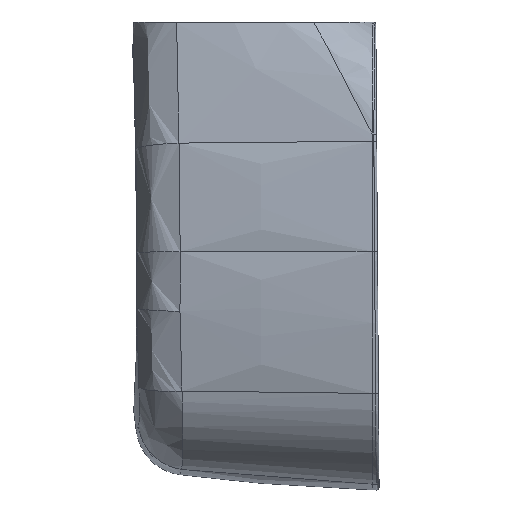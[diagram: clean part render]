
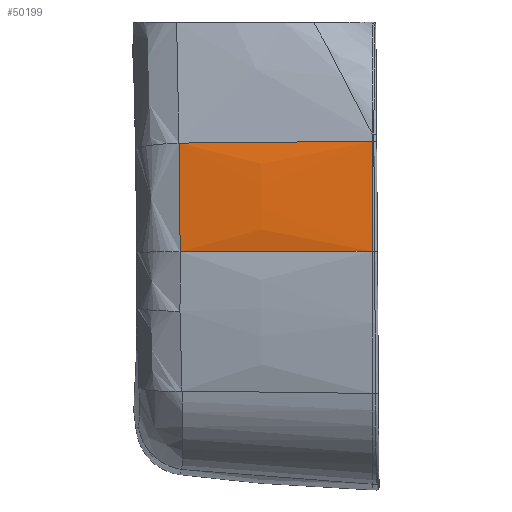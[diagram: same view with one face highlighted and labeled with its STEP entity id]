
A CAD part, front view. The second image highlights one B-rep face of the part: STEP entity #50199.
In plain terms, the highlighted free-form (B-spline) face has degree [5, 5] with [6, 9] control points.
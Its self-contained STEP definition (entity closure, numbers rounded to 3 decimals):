
#47293=CARTESIAN_POINT('Control Point',(265.896,-179.898,4.947)) ;
#47294=CARTESIAN_POINT('Control Point',(241.653,-179.27,4.937)) ;
#47295=CARTESIAN_POINT('Control Point',(217.441,-178.273,4.921)) ;
#47296=CARTESIAN_POINT('Control Point',(193.262,-176.906,4.899)) ;
#47297=CARTESIAN_POINT('Control Point',(151.411,-173.897,4.851)) ;
#47298=CARTESIAN_POINT('Control Point',(109.657,-169.779,4.784)) ;
#47299=CARTESIAN_POINT('Control Point',(92.012,-167.839,4.753)) ;
#47300=CARTESIAN_POINT('Control Point',(74.384,-165.7,4.718)) ;
#47301=CARTESIAN_POINT('Control Point',(56.773,-163.362,4.681)) ;
#47302=CARTESIAN_POINT('Vertex',(265.896,-179.898,4.947)) ;
#47304=CARTESIAN_POINT('Vertex',(56.773,-163.362,4.681)) ;
#50109=CARTESIAN_POINT('Control Point',(270.,-180.,4.949)) ;
#50110=CARTESIAN_POINT('Control Point',(244.931,-179.402,4.939)) ;
#50111=CARTESIAN_POINT('Control Point',(219.896,-178.41,4.923)) ;
#50112=CARTESIAN_POINT('Control Point',(194.896,-177.023,4.901)) ;
#50113=CARTESIAN_POINT('Control Point',(144.827,-173.45,4.843)) ;
#50114=CARTESIAN_POINT('Control Point',(94.895,-168.289,4.76)) ;
#50115=CARTESIAN_POINT('Control Point',(69.895,-165.302,4.712)) ;
#50116=CARTESIAN_POINT('Control Point',(44.93,-161.916,4.657)) ;
#50117=CARTESIAN_POINT('Control Point',(20.,-158.131,4.596)) ;
#50118=CARTESIAN_POINT('Control Point',(270.,-179.612,29.011)) ;
#50119=CARTESIAN_POINT('Control Point',(244.931,-179.014,28.989)) ;
#50120=CARTESIAN_POINT('Control Point',(219.896,-178.022,28.953)) ;
#50121=CARTESIAN_POINT('Control Point',(194.896,-176.636,28.903)) ;
#50122=CARTESIAN_POINT('Control Point',(144.827,-173.064,28.773)) ;
#50123=CARTESIAN_POINT('Control Point',(94.895,-167.904,28.586)) ;
#50124=CARTESIAN_POINT('Control Point',(69.895,-164.918,28.477)) ;
#50125=CARTESIAN_POINT('Control Point',(44.93,-161.534,28.354)) ;
#50126=CARTESIAN_POINT('Control Point',(20.,-157.75,28.217)) ;
#50127=CARTESIAN_POINT('Control Point',(270.,-178.617,53.063)) ;
#50128=CARTESIAN_POINT('Control Point',(244.931,-178.02,53.029)) ;
#50129=CARTESIAN_POINT('Control Point',(219.896,-177.029,52.973)) ;
#50130=CARTESIAN_POINT('Control Point',(194.896,-175.643,52.895)) ;
#50131=CARTESIAN_POINT('Control Point',(144.827,-172.074,52.693)) ;
#50132=CARTESIAN_POINT('Control Point',(94.895,-166.919,52.401)) ;
#50133=CARTESIAN_POINT('Control Point',(69.895,-163.936,52.232)) ;
#50134=CARTESIAN_POINT('Control Point',(44.93,-160.554,52.041)) ;
#50135=CARTESIAN_POINT('Control Point',(20.,-156.773,51.827)) ;
#50136=CARTESIAN_POINT('Control Point',(270.,-177.014,77.08)) ;
#50137=CARTESIAN_POINT('Control Point',(244.931,-176.418,77.034)) ;
#50138=CARTESIAN_POINT('Control Point',(219.896,-175.428,76.958)) ;
#50139=CARTESIAN_POINT('Control Point',(194.896,-174.045,76.852)) ;
#50140=CARTESIAN_POINT('Control Point',(144.827,-170.48,76.578)) ;
#50141=CARTESIAN_POINT('Control Point',(94.895,-165.332,76.182)) ;
#50142=CARTESIAN_POINT('Control Point',(69.895,-162.353,75.953)) ;
#50143=CARTESIAN_POINT('Control Point',(44.93,-158.975,75.693)) ;
#50144=CARTESIAN_POINT('Control Point',(20.,-155.2,75.403)) ;
#50145=CARTESIAN_POINT('Control Point',(270.,-174.806,101.05)) ;
#50146=CARTESIAN_POINT('Control Point',(244.931,-174.211,100.992)) ;
#50147=CARTESIAN_POINT('Control Point',(219.896,-173.223,100.896)) ;
#50148=CARTESIAN_POINT('Control Point',(194.896,-171.842,100.762)) ;
#50149=CARTESIAN_POINT('Control Point',(144.827,-168.284,100.416)) ;
#50150=CARTESIAN_POINT('Control Point',(94.895,-163.146,99.917)) ;
#50151=CARTESIAN_POINT('Control Point',(69.895,-160.172,99.628)) ;
#50152=CARTESIAN_POINT('Control Point',(44.93,-156.801,99.3)) ;
#50153=CARTESIAN_POINT('Control Point',(20.,-153.032,98.934)) ;
#50154=CARTESIAN_POINT('Control Point',(270.,-172.,124.949)) ;
#50155=CARTESIAN_POINT('Control Point',(244.931,-171.406,124.879)) ;
#50156=CARTESIAN_POINT('Control Point',(219.896,-170.421,124.764)) ;
#50157=CARTESIAN_POINT('Control Point',(194.896,-169.043,124.602)) ;
#50158=CARTESIAN_POINT('Control Point',(144.827,-165.493,124.185)) ;
#50159=CARTESIAN_POINT('Control Point',(94.895,-160.367,123.583)) ;
#50160=CARTESIAN_POINT('Control Point',(69.895,-157.4,123.235)) ;
#50161=CARTESIAN_POINT('Control Point',(44.93,-154.037,122.84)) ;
#50162=CARTESIAN_POINT('Control Point',(20.,-150.277,122.398)) ;
#50164=CARTESIAN_POINT('Control Point',(265.896,-171.899,124.937)) ;
#50165=CARTESIAN_POINT('Control Point',(241.653,-171.275,124.864)) ;
#50166=CARTESIAN_POINT('Control Point',(217.441,-170.284,124.748)) ;
#50167=CARTESIAN_POINT('Control Point',(193.262,-168.927,124.588)) ;
#50168=CARTESIAN_POINT('Control Point',(151.156,-165.92,124.235)) ;
#50169=CARTESIAN_POINT('Control Point',(109.148,-161.798,123.751)) ;
#50170=CARTESIAN_POINT('Control Point',(91.248,-159.837,123.521)) ;
#50171=CARTESIAN_POINT('Control Point',(73.367,-157.673,123.267)) ;
#50172=CARTESIAN_POINT('Control Point',(55.503,-155.306,122.989)) ;
#50173=CARTESIAN_POINT('Vertex',(265.896,-171.899,124.937)) ;
#50175=CARTESIAN_POINT('Vertex',(55.503,-155.306,122.989)) ;
#50179=CARTESIAN_POINT('Control Point',(56.773,-163.362,4.681)) ;
#50180=CARTESIAN_POINT('Control Point',(56.709,-162.971,28.414)) ;
#50181=CARTESIAN_POINT('Control Point',(56.545,-161.968,52.137)) ;
#50182=CARTESIAN_POINT('Control Point',(56.283,-160.352,75.814)) ;
#50183=CARTESIAN_POINT('Control Point',(55.931,-158.128,99.446)) ;
#50184=CARTESIAN_POINT('Control Point',(55.503,-155.306,122.989)) ;
#50187=CARTESIAN_POINT('Control Point',(265.896,-179.898,4.947)) ;
#50188=CARTESIAN_POINT('Control Point',(265.896,-179.413,35.022)) ;
#50189=CARTESIAN_POINT('Control Point',(265.896,-177.916,65.078)) ;
#50190=CARTESIAN_POINT('Control Point',(265.896,-175.406,95.065)) ;
#50191=CARTESIAN_POINT('Control Point',(265.896,-171.899,124.937)) ;
#50194=ORIENTED_EDGE('',*,*,#50177,.T.) ;
#50195=ORIENTED_EDGE('',*,*,#50185,.F.) ;
#50196=ORIENTED_EDGE('',*,*,#47306,.F.) ;
#50197=ORIENTED_EDGE('',*,*,#50192,.T.) ;
#50199=ADVANCED_FACE('Modello',(#50198),#50108,.T.) ;
#47292=B_SPLINE_CURVE_WITH_KNOTS('',5,(#47293,#47294,#47295,#47296,#47297,#47298,#47299,#47300,#47301),.UNSPECIFIED.,.F.,.U.,(6,3,6),(4.099,125.192,213.974),.UNSPECIFIED.) ;
#50163=B_SPLINE_CURVE_WITH_KNOTS('',5,(#50164,#50165,#50166,#50167,#50168,#50169,#50170,#50171,#50172),.UNSPECIFIED.,.F.,.U.,(6,3,6),(4.099,125.192,215.255),.UNSPECIFIED.) ;
#50178=B_SPLINE_CURVE_WITH_KNOTS('',5,(#50179,#50180,#50181,#50182,#50183,#50184),.UNSPECIFIED.,.F.,.U.,(6,6),(138.706,303.289),.UNSPECIFIED.) ;
#50186=B_SPLINE_CURVE_WITH_KNOTS('',4,(#50187,#50188,#50189,#50190,#50191),.UNSPECIFIED.,.F.,.U.,(5,5),(-59.726,59.726),.UNSPECIFIED.) ;
#50108=B_SPLINE_SURFACE_WITH_KNOTS('',5,5,((#50109,#50110,#50111,#50112,#50113,#50114,#50115,#50116,#50117),(#50118,#50119,#50120,#50121,#50122,#50123,#50124,#50125,#50126),(#50127,#50128,#50129,#50130,#50131,#50132,#50133,#50134,#50135),(#50136,#50137,#50138,#50139,#50140,#50141,#50142,#50143,#50144),(#50145,#50146,#50147,#50148,#50149,#50150,#50151,#50152,#50153),(#50154,#50155,#50156,#50157,#50158,#50159,#50160,#50161,#50162)),.UNSPECIFIED.,.F.,.F.,.U.,(6,6),(6,3,6),(0.,119.452),(0.,125.192,251.081),.UNSPECIFIED.) ;
#47306=EDGE_CURVE('',#47303,#47305,#47292,.T.) ;
#50177=EDGE_CURVE('',#50174,#50176,#50163,.T.) ;
#50185=EDGE_CURVE('',#47305,#50176,#50178,.T.) ;
#50192=EDGE_CURVE('',#47303,#50174,#50186,.T.) ;
#50193=EDGE_LOOP('',(#50194,#50195,#50196,#50197)) ;
#50198=FACE_OUTER_BOUND('',#50193,.T.) ;
#47303=VERTEX_POINT('',#47302) ;
#47305=VERTEX_POINT('',#47304) ;
#50174=VERTEX_POINT('',#50173) ;
#50176=VERTEX_POINT('',#50175) ;
